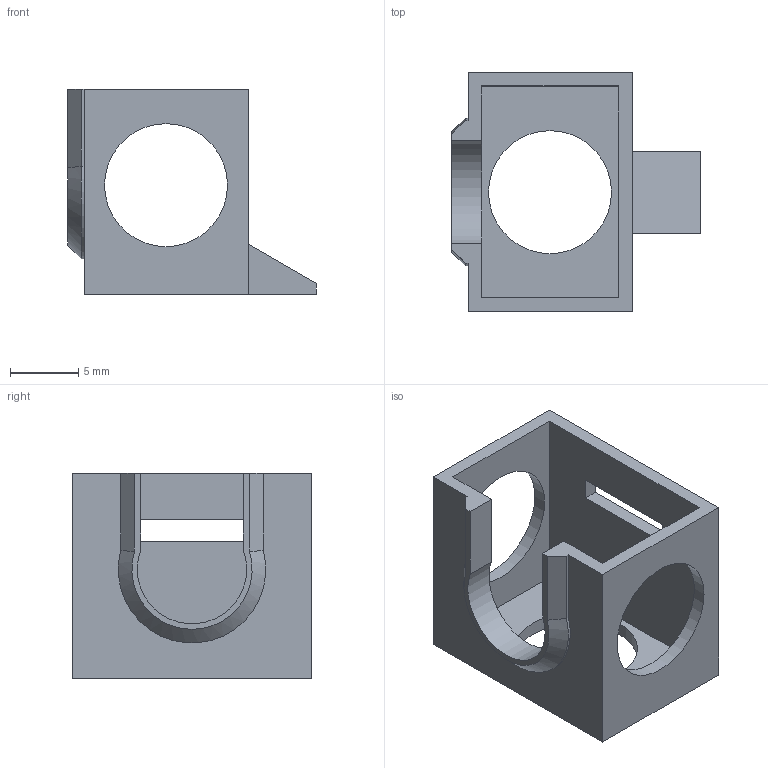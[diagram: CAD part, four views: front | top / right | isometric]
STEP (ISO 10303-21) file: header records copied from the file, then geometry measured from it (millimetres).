
FILE_DESCRIPTION(('FreeCAD Model'),'2;1');
FILE_NAME('Open CASCADE Shape Model','2025-11-16T15:04:39',(''),(''), 'Open CASCADE STEP processor 7.7','FreeCAD','Unknown');
FILE_SCHEMA(('AUTOMOTIVE_DESIGN { 1 0 10303 214 1 1 1 1 }'));
Length unit declared in the file: millimetre
Products named in the file (1): Chamfer
Bounding box: 18.2 x 17.5 x 15 mm (x, y, z)
Volume: 799.9 mm3; surface area: 1701.3 mm2
Topology: 1 solids, 1 shells, 32 faces, 88 edges, 58 vertices
Faces by surface type: plane 26, cylinder 5, cone 1
Full cylindrical faces by diameter (mm): 9 x3
Entity records: 2189 total; most frequent: CARTESIAN_POINT 439, DIRECTION 304, LINE 209, VECTOR 209, ORIENTED_EDGE 176, PCURVE 176, DEFINITIONAL_REPRESENTATION 176, EDGE_CURVE 88
